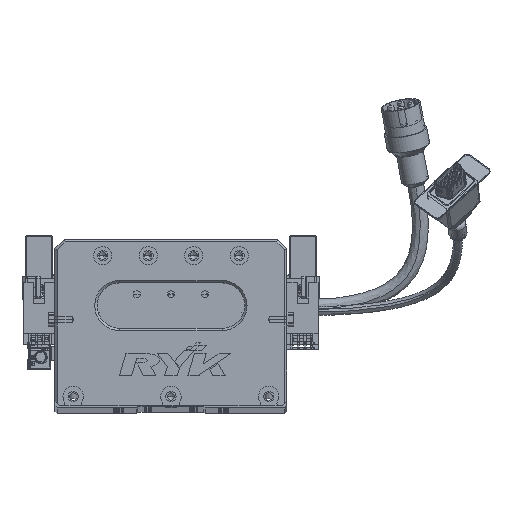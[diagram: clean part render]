
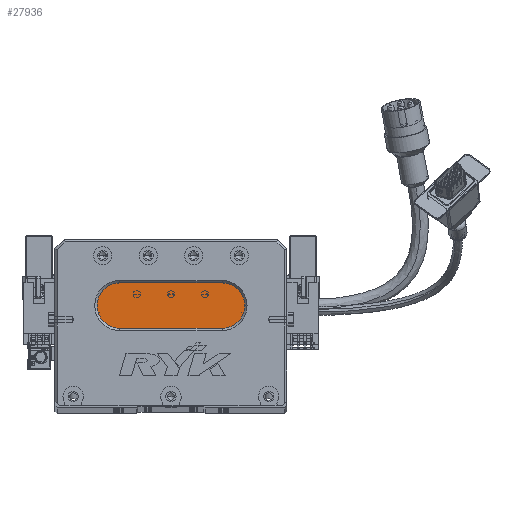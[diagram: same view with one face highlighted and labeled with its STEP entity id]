
A CAD part, top view. The second image highlights one B-rep face of the part: STEP entity #27936.
In plain terms, the highlighted planar face has unit normal (0, 0, 1) as drawn and (0, 0, -1) by its records, which use the part's own axes.
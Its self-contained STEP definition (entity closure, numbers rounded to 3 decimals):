
#924 = VECTOR ( 'NONE', #36938, 1000. ) ;
#4583 = CIRCLE ( 'NONE', #55972, 10. ) ;
#5907 = AXIS2_PLACEMENT_3D ( 'NONE', #25149, #35955, #24399 ) ;
#8259 = DIRECTION ( 'NONE',  ( 0., 0., -1. ) ) ;
#10656 = DIRECTION ( 'NONE',  ( -1., 0., 0. ) ) ;
#10749 = AXIS2_PLACEMENT_3D ( 'NONE', #22941, #22226, #10656 ) ;
#11898 = EDGE_CURVE ( 'NONE', #18399, #41246, #49644, .T. ) ;
#15466 = VERTEX_POINT ( 'NONE', #41653 ) ;
#15501 = FACE_OUTER_BOUND ( 'NONE', #52366, .T. ) ;
#16484 = CARTESIAN_POINT ( 'NONE',  ( 28.5, 34., 13. ) ) ;
#17680 = LINE ( 'NONE', #20912, #924 ) ;
#18399 = VERTEX_POINT ( 'NONE', #16484 ) ;
#20912 = CARTESIAN_POINT ( 'NONE',  ( 73.5, 34., 13. ) ) ;
#22226 = DIRECTION ( 'NONE',  ( 0., 0., -1. ) ) ;
#22407 = ORIENTED_EDGE ( 'NONE', *, *, #24753, .T. ) ;
#22941 = CARTESIAN_POINT ( 'NONE',  ( 28.5, 44., 13. ) ) ;
#24399 = DIRECTION ( 'NONE',  ( -1., 0., 0. ) ) ;
#24753 = EDGE_CURVE ( 'NONE', #63471, #18399, #17680, .T. ) ;
#24759 = CARTESIAN_POINT ( 'NONE',  ( 28.5, 44., 13. ) ) ;
#25072 = EDGE_CURVE ( 'NONE', #15466, #28679, #48505, .T. ) ;
#25149 = CARTESIAN_POINT ( 'NONE',  ( 73.5, 44., 13. ) ) ;
#26541 = ORIENTED_EDGE ( 'NONE', *, *, #65305, .T. ) ;
#27936 = ADVANCED_FACE ( 'NONE', ( #15501 ), #58655, .T. ) ;
#28679 = VERTEX_POINT ( 'NONE', #69904 ) ;
#34564 = ORIENTED_EDGE ( 'NONE', *, *, #11898, .T. ) ;
#35955 = DIRECTION ( 'NONE',  ( 0., 0., -1. ) ) ;
#36938 = DIRECTION ( 'NONE',  ( -1., 0., 0. ) ) ;
#38804 = DIRECTION ( 'NONE',  ( 0., 0., -1. ) ) ;
#39315 = DIRECTION ( 'NONE',  ( -1., 0., 0. ) ) ;
#40076 = DIRECTION ( 'NONE',  ( 1., 0., 0. ) ) ;
#41246 = VERTEX_POINT ( 'NONE', #57257 ) ;
#41653 = CARTESIAN_POINT ( 'NONE',  ( 28.5, 54., 13. ) ) ;
#43842 = AXIS2_PLACEMENT_3D ( 'NONE', #24759, #8259, #59480 ) ;
#44316 = CARTESIAN_POINT ( 'NONE',  ( 73.5, 34., 13. ) ) ;
#44997 = CARTESIAN_POINT ( 'NONE',  ( 73.5, 54., 13. ) ) ;
#45889 = VECTOR ( 'NONE', #40076, 1000. ) ;
#48505 = LINE ( 'NONE', #44997, #45889 ) ;
#49644 = CIRCLE ( 'NONE', #10749, 10. ) ;
#50699 = ORIENTED_EDGE ( 'NONE', *, *, #25072, .T. ) ;
#52366 = EDGE_LOOP ( 'NONE', ( #63678, #22407, #34564, #26541, #50699 ) ) ;
#55972 = AXIS2_PLACEMENT_3D ( 'NONE', #67179, #38804, #39315 ) ;
#57100 = EDGE_CURVE ( 'NONE', #28679, #63471, #4583, .T. ) ;
#57257 = CARTESIAN_POINT ( 'NONE',  ( 18.5, 44., 13. ) ) ;
#58655 = PLANE ( 'NONE',  #5907 ) ;
#59480 = DIRECTION ( 'NONE',  ( -1., 0., 0. ) ) ;
#63471 = VERTEX_POINT ( 'NONE', #44316 ) ;
#63678 = ORIENTED_EDGE ( 'NONE', *, *, #57100, .T. ) ;
#65305 = EDGE_CURVE ( 'NONE', #41246, #15466, #69773, .T. ) ;
#67179 = CARTESIAN_POINT ( 'NONE',  ( 73.5, 44., 13. ) ) ;
#69773 = CIRCLE ( 'NONE', #43842, 10. ) ;
#69904 = CARTESIAN_POINT ( 'NONE',  ( 73.5, 54., 13. ) ) ;
